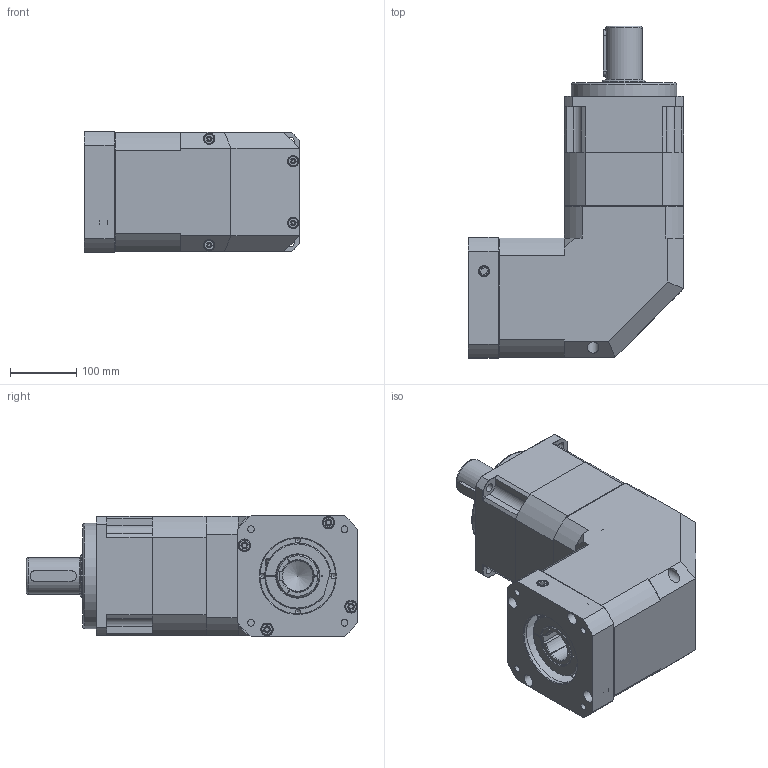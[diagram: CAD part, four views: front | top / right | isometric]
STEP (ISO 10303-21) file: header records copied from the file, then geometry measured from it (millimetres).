
FILE_DESCRIPTION((''),'2;1');
FILE_NAME('C:\Work\감속기 카다로그 도면\ATG Reducer(홈페이지)\PBL-H\STP\PBL180-H-2.stp','2014-05-27T14:55:09',('young'),(''),'Autodesk Inventor 2012','Autodesk Inventor 2012','');
FILE_SCHEMA(('AUTOMOTIVE_DESIGN { 1 0 10303 214 1 1 1 1 }'));
Length unit declared in the file: millimetre
Products named in the file (1): PBL180-H-2
Bounding box: 325 x 501.6 x 182 mm (x, y, z)
Volume: 10195498.5 mm3; surface area: 1013824.3 mm2
Topology: 22 solids, 22 shells, 691 faces, 1655 edges, 1062 vertices
Faces by surface type: plane 388, cylinder 151, cone 119, torus 17, bspline 16
Full cylindrical faces by diameter (mm): 8 x4, 8.5 x5, 10 x5, 10.2 x8, 11 x5, 12 x5, 13 x12, 14 x1, 14.275 x2, 14.5 x2, 16 x5, 17 x4, 18 x4, 19 x4, 38 x1, 40 x2, 46 x1, 55 x1, 58 x1, 64.8 x1, 65 x1, 65.4 x1, 70 x1, 74.7 x1, 75 x1, 81 x1, 87 x1, 90 x5, 110 x1, 114.3 x1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
Entity records: 23984 total; most frequent: CARTESIAN_POINT 8578, DIRECTION 3179, ORIENTED_EDGE 2880, EDGE_CURVE 1440, AXIS2_PLACEMENT_3D 1212, VERTEX_POINT 1024, EDGE_LOOP 986, VECTOR 755
